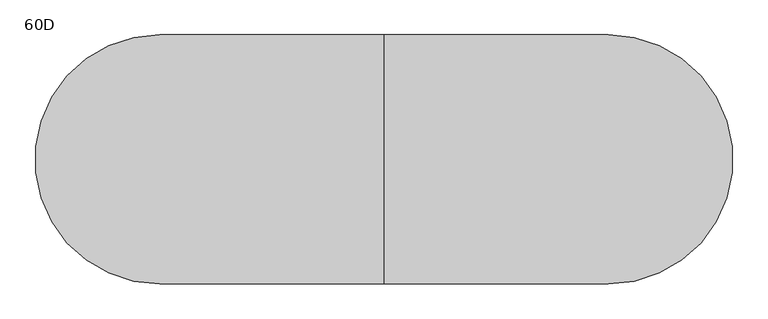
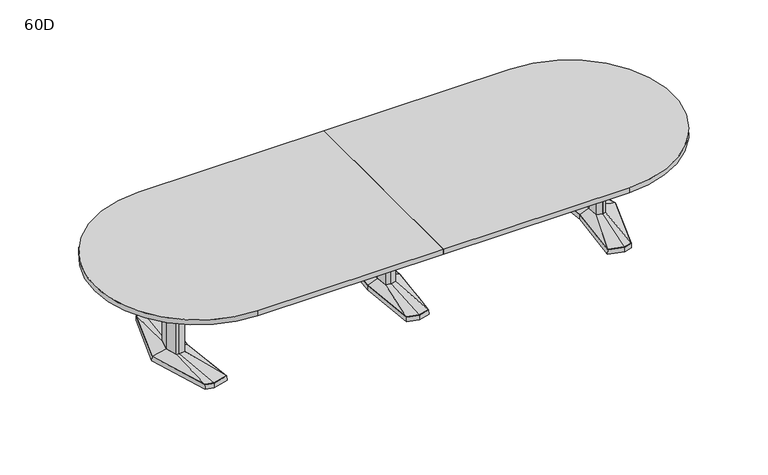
"""IFC4 building model written with IfcOpenShell, lengths in millimetres: furniture geometry, Coalesse_AM_Table_Conference_ETable2_Racetrack_14ft_AluminiumBase : 60D."""

import ifcopenshell
import ifcopenshell.guid

model = None  # the IFC model being written
_history = None  # IfcOwnerHistory: only IFC2X3 demands one
_inside = {}  # id of a spatial element -> (the spatial element, [elements in it])
_under = {}  # id of a project, library or spatial element -> (it, [spatial elements below it])
_declared = {}  # id of a project -> (the project, [libraries it declares])
_typed = {}  # id of a type object -> (the type object, [elements of that type])
_made_of = {}  # id of a material, layer set ... -> (it, [elements and type objects made of it])


def new_model(schema):
    """Start an empty IFC model of exactly this schema.

    Asked for "IFC4X3", IfcOpenShell would pick the latest addendum, in which some entities
    have other attributes; the version numbers below select the first issue.
    IFC2X3 requires an IfcOwnerHistory on every rooted entity: one is made here for all.
    """
    global model, _history
    if schema == "IFC4X3":
        model = ifcopenshell.file(schema_version=(4, 3, 0, 0))
    else:
        model = ifcopenshell.file(schema=schema)
    _inside.clear()
    _under.clear()
    _declared.clear()
    _typed.clear()
    _made_of.clear()
    _history = None
    if model.schema == "IFC2X3":
        org = make("IfcOrganization", Name="unknown")
        user = make(
            "IfcPersonAndOrganization",
            ThePerson=make("IfcPerson", FamilyName="unknown"),
            TheOrganization=org,
        )
        app = make(
            "IfcApplication",
            ApplicationDeveloper=org,
            Version="unknown",
            ApplicationFullName="unknown",
            ApplicationIdentifier="unknown",
        )
        _history = make(
            "IfcOwnerHistory",
            OwningUser=user,
            OwningApplication=app,
            ChangeAction="ADDED",
            CreationDate=0,
        )
    return model


def make(cls, **values):
    """One entity of the class cls with the attributes given. An attribute that is None is left unset."""
    return model.create_entity(
        cls, **{name: value for name, value in values.items() if value is not None}
    )


def rooted(cls, **values):
    """An entity with a GlobalId (a new one), such as an element, a storey or a relation."""
    return make(cls, GlobalId=ifcopenshell.guid.new(), OwnerHistory=_history, **values)


def si_unit(unit_type, name, prefix=None):
    """IfcSIUnit, for example si_unit("LENGTHUNIT", "METRE", prefix="MILLI")."""
    return make("IfcSIUnit", UnitType=unit_type, Prefix=prefix, Name=name)


def assignment(units):
    """IfcUnitAssignment: the units of a project."""
    return None if units is None else make("IfcUnitAssignment", Units=units)


def point(xyz):
    """IfcCartesianPoint."""
    return None if xyz is None else make("IfcCartesianPoint", Coordinates=xyz)


def direction(xyz):
    """IfcDirection."""
    return None if xyz is None else make("IfcDirection", DirectionRatios=xyz)


def frame(location, z_axis=None, x_axis=None):
    """IfcAxis2Placement3D, a coordinate frame: its origin and axes. An axis left out is left unset."""
    return make(
        "IfcAxis2Placement3D",
        Location=point(location),
        Axis=direction(z_axis),
        RefDirection=direction(x_axis),
    )


def frame_2d(location, x_axis=None):
    """IfcAxis2Placement2D, a coordinate frame in the plane: its origin and x axis."""
    return make(
        "IfcAxis2Placement2D", Location=point(location), RefDirection=direction(x_axis)
    )


def origin():
    """The frame at (0, 0, 0) with its axes left unset."""
    return frame((0.0, 0.0, 0.0))


def place(relative_to, where):
    """IfcLocalPlacement: puts the frame where relative to a parent placement (None: the world)."""
    return make(
        "IfcLocalPlacement", PlacementRelTo=relative_to, RelativePlacement=where
    )


def context(
    kind, dimensions, precision=None, world=None, true_north=None, identifier=None
):
    """IfcGeometricRepresentationContext, for example the 3D "Model" context."""
    return make(
        "IfcGeometricRepresentationContext",
        ContextIdentifier=identifier,
        ContextType=kind,
        CoordinateSpaceDimension=dimensions,
        Precision=precision,
        WorldCoordinateSystem=world,
        TrueNorth=true_north,
    )


def project(units=None, contexts=None):
    """IfcProject with its units and contexts."""
    return rooted(
        "IfcProject",
        Name="project",
        RepresentationContexts=contexts,
        UnitsInContext=assignment(units),
    )


def spatial(cls, under=None, at=None, **own):
    """A site, building, storey or space (cls), placed at a placement, below another one or the project."""
    s = rooted(cls, ObjectPlacement=at, **own)
    if under is not None:
        _under.setdefault(under.id(), (under, []))[1].append(s)
    return s


def polyline(points):
    """IfcPolyline through the points."""
    return make("IfcPolyline", Points=[point(p) for p in points])


def circle_curve(where, radius):
    """IfcCircle in the frame where."""
    return make("IfcCircle", Position=where, Radius=radius)


def trimmed(basis, trim1, trim2, sense, master):
    """IfcTrimmedCurve: the piece of a basis curve between two trims."""
    return make(
        "IfcTrimmedCurve",
        BasisCurve=basis,
        Trim1=trim1,
        Trim2=trim2,
        SenseAgreement=sense,
        MasterRepresentation=master,
    )


def segment(curve, same_sense, transition):
    """IfcCompositeCurveSegment."""
    return make(
        "IfcCompositeCurveSegment",
        Transition=transition,
        SameSense=same_sense,
        ParentCurve=curve,
    )


def composite_curve(segments, self_intersect=None):
    """IfcCompositeCurve: segments joined end to end."""
    return make("IfcCompositeCurve", Segments=segments, SelfIntersect=self_intersect)


def outline(outer, holes=None, kind="AREA"):
    """IfcArbitraryClosedProfileDef: a profile drawn as a closed curve; with holes, ...WithVoids."""
    if holes is None:
        return make("IfcArbitraryClosedProfileDef", ProfileType=kind, OuterCurve=outer)
    return make(
        "IfcArbitraryProfileDefWithVoids",
        ProfileType=kind,
        OuterCurve=outer,
        InnerCurves=holes,
    )


def extrude(swept, where, along, depth):
    """IfcExtrudedAreaSolid: the profile swept, set in the frame where, extruded along a direction by depth."""
    return make(
        "IfcExtrudedAreaSolid",
        SweptArea=swept,
        Position=where,
        ExtrudedDirection=direction(along),
        Depth=depth,
    )


def faces_of(points, faces, orient=None, outer=None):
    """IfcFace entities. A face is a list of loops; a loop is a list of indices into points, from 0.

    orient and outer hold one flag for each loop. By default every Orientation is true, the
    first loop of a face is its IfcFaceOuterBound and the others are IfcFaceBound.
    """
    made = []
    for i, loops in enumerate(faces):
        bounds = []
        for j, loop in enumerate(loops):
            is_outer = j == 0 if outer is None else outer[i][j]
            bounds.append(
                make(
                    "IfcFaceOuterBound" if is_outer else "IfcFaceBound",
                    Bound=make("IfcPolyLoop", Polygon=[points[k] for k in loop]),
                    Orientation=True if orient is None else orient[i][j],
                )
            )
        made.append(make("IfcFace", Bounds=bounds))
    return made


def faceted_brep(points, faces, orient=None, outer=None, voids=None):
    """IfcFacetedBrep: a solid bounded by flat faces; with voids (closed shells), ...WithVoids."""
    shared = [point(p) for p in points]
    hull = make("IfcClosedShell", CfsFaces=faces_of(shared, faces, orient, outer))
    if voids is None:
        return make("IfcFacetedBrep", Outer=hull)
    return make(
        "IfcFacetedBrepWithVoids",
        Outer=hull,
        Voids=[
            make(cls, CfsFaces=faces_of(shared, fs, o, b)) for cls, fs, o, b in voids
        ],
    )


def shape(context_of_items, identifier, shape_type, items):
    """IfcShapeRepresentation: the items that make up one representation, for example the "Body"."""
    return make(
        "IfcShapeRepresentation",
        ContextOfItems=context_of_items,
        RepresentationIdentifier=identifier,
        RepresentationType=shape_type,
        Items=items,
    )


def source(mapping_origin, context_of_items, identifier, shape_type, items):
    """IfcRepresentationMap: a shape defined once, which mapped items show again and again."""
    return make(
        "IfcRepresentationMap",
        MappingOrigin=mapping_origin,
        MappedRepresentation=shape(context_of_items, identifier, shape_type, items),
    )


def transform(
    local_origin,
    x_axis=None,
    y_axis=None,
    z_axis=None,
    scale=None,
    scale2=None,
    scale3=None,
    uniform=True,
):
    """IfcCartesianTransformationOperator3D, or its non-uniform kind. x_axis, y_axis, z_axis: its Axis1, 2, 3."""
    if uniform:
        return make(
            "IfcCartesianTransformationOperator3D",
            Axis1=direction(x_axis),
            Axis2=direction(y_axis),
            LocalOrigin=point(local_origin),
            Scale=scale,
            Axis3=direction(z_axis),
        )
    return make(
        "IfcCartesianTransformationOperator3DnonUniform",
        Axis1=direction(x_axis),
        Axis2=direction(y_axis),
        LocalOrigin=point(local_origin),
        Scale=scale,
        Axis3=direction(z_axis),
        Scale2=scale2,
        Scale3=scale3,
    )


def mapped(mapping_source, mapping_target):
    """IfcMappedItem: shows the shape of a source again, moved by a transform."""
    return make(
        "IfcMappedItem", MappingSource=mapping_source, MappingTarget=mapping_target
    )


def made_of(thing, what):
    """Note that an element or type object is made of a material, layer set ...; save() writes the relation."""
    if what is not None:
        _made_of.setdefault(what.id(), (what, []))[1].append(thing)
    return thing


def element(
    cls,
    number,
    at=None,
    inside=None,
    cuts=None,
    type_object=None,
    material=None,
    context=None,
    identifier="Body",
    shape_type=None,
    held_by="IfcProductDefinitionShape",
    body=None,
    shapes=None,
    **own,
):
    """One element of the class cls, such as IfcWall. Its Tag is "e" and its number.

    at: its placement. inside: the storey or other place that contains it. cuts: it is an
    opening in that element (IfcRelVoidsElement). A single representation is given by context,
    identifier, shape_type and body (its items); several are given by shapes. held_by: the class
    of the entity that holds the representations. save() writes the other relations.
    """
    e = rooted(cls, Tag="e%d" % number, ObjectPlacement=at, **own)
    if body is not None:
        shapes = [shape(context, identifier, shape_type, body)]
    if shapes is not None:
        e.Representation = make(held_by, Representations=shapes)
    if inside is not None:
        _inside.setdefault(inside.id(), (inside, []))[1].append(e)
    if cuts is not None:
        rooted(
            "IfcRelVoidsElement", RelatingBuildingElement=cuts, RelatedOpeningElement=e
        )
    if type_object is not None:
        _typed.setdefault(type_object.id(), (type_object, []))[1].append(e)
    return made_of(e, material)


def aggregate(whole, parts):
    """IfcRelAggregates: a whole, such as a stair, and the parts it consists of."""
    return rooted("IfcRelAggregates", RelatingObject=whole, RelatedObjects=parts)


def save(model, path):
    """Write the relations noted so far, then the file.

    IfcRelAggregates (storeys below a building ...), IfcRelContainedInSpatialStructure (elements
    in a storey), IfcRelDefinesByType, IfcRelAssociatesMaterial and IfcRelDeclares: one each for
    every whole, place, type object, material and project.
    """
    for whole, parts in _under.values():
        aggregate(whole, parts)
    for where, things in _inside.values():
        rooted(
            "IfcRelContainedInSpatialStructure",
            RelatedElements=things,
            RelatingStructure=where,
        )
    for kind, things in _typed.values():
        rooted("IfcRelDefinesByType", RelatedObjects=things, RelatingType=kind)
    for what, things in _made_of.values():
        rooted("IfcRelAssociatesMaterial", RelatedObjects=things, RelatingMaterial=what)
    for by, libraries in _declared.values():
        rooted("IfcRelDeclares", RelatingContext=by, RelatedDefinitions=libraries)
    model.write(path)


def plane_surface(at):
    """IfcPlane: the flat surface through the origin of the frame at, square to its z axis."""
    return make("IfcPlane", Position=at)


def spline_surface(u_degree, v_degree, points, u_multiplicities, v_multiplicities, u_knots, v_knots, weights=None):
    """IfcBSplineSurfaceWithKnots; with weights, IfcRationalBSplineSurfaceWithKnots. points: one row for each step in u."""
    own = dict(
        UDegree=u_degree,
        VDegree=v_degree,
        ControlPointsList=[[point(p) for p in row] for row in points],
        SurfaceForm="UNSPECIFIED",
        UClosed=False,
        VClosed=False,
        SelfIntersect=False,
        UMultiplicities=u_multiplicities,
        VMultiplicities=v_multiplicities,
        UKnots=u_knots,
        VKnots=v_knots,
        KnotSpec="UNSPECIFIED",
    )
    if weights is None:
        return make("IfcBSplineSurfaceWithKnots", **own)
    return make("IfcRationalBSplineSurfaceWithKnots", WeightsData=weights, **own)


def advanced_brep(points, edges, surfaces, faces):
    """IfcAdvancedBrep: a solid bounded by faces that lie on surfaces and meet in shared edges.

    An edge is (start, end): straight between two places in points (the first is 0);
    or (start, end, curve); or (start, end, curve, False) where it runs against its curve.
    A face is (place in surfaces, loops), or (place, loops, False) where it looks against
    its surface's normal. A loop lists edges by number (the first is 1), with a minus sign
    where the edge is run from its end to its start. The first loop is the outer one.
    """
    corners = [point(p) for p in points]
    vertices = [make("IfcVertexPoint", VertexGeometry=c) for c in corners]
    made = []
    for start, end, *more in edges:
        made.append(
            make(
                "IfcEdgeCurve",
                EdgeStart=vertices[start],
                EdgeEnd=vertices[end],
                EdgeGeometry=more[0] if more else make("IfcPolyline", Points=[corners[start], corners[end]]),
                SameSense=more[1] if len(more) > 1 else True,
            )
        )
    hull = []
    for where, loops, *sense in faces:
        bounds = []
        for j, loop in enumerate(loops):
            ring = [make("IfcOrientedEdge", EdgeElement=made[abs(k) - 1], Orientation=k > 0) for k in loop]
            bounds.append(
                make(
                    "IfcFaceOuterBound" if j == 0 else "IfcFaceBound",
                    Bound=make("IfcEdgeLoop", EdgeList=ring),
                    Orientation=True,
                )
            )
        hull.append(make("IfcAdvancedFace", Bounds=bounds, FaceSurface=surfaces[where], SameSense=sense[0] if sense else True))
    return make("IfcAdvancedBrep", Outer=make("IfcClosedShell", CfsFaces=hull))


def furniture_60d_5a4dc6db(model_context):
    return source(origin(), model_context, "Body", "SolidModel", [
        faceted_brep([(-81.2333791, -433.8053819, 38.1), (0.0, -455.556576, 38.1), (81.2333791, -433.8053819, 38.1), (119.0564774, 0.0, 38.1), (81.2333791, 433.8053819, 38.1), (0.0, 455.556576, 38.1), (-81.2333791, 433.8053819, 38.1), (-119.0564774, 0.0, 38.1), (-82.7182795, -435.0512063, 3.175), (-120.65, 0.0, 3.175), (-82.7182795, 435.0512063, 3.175), (0.0, 457.2, 3.175), (82.7182795, 435.0512063, 3.175), (120.65, 0.0, 3.175), (82.7182795, -435.0512063, 3.175), (0.0, -457.2, 3.175), (0.0, 429.2617927, 3.175), (-77.9676806, 408.3850278, 3.175), (-74.7019821, 382.9646737, 3.175), (0.0, 402.9670094, 3.175), (74.7019821, 382.9646737, 3.175), (77.9676806, 408.3850278, 3.175), (0.0, -429.2617927, 3.175), (77.9676806, -408.3850278, 3.175), (74.7019821, -382.9646737, 3.175), (0.0, -402.9670094, 3.175), (-74.7019821, -382.9646737, 3.175), (-77.9676806, -408.3850278, 3.175), (-71.8574262, 114.6326257, 3.175), (-82.5426076, 0.0, 3.175), (-71.8574262, -114.6326257, 3.175), (0.0, -133.8761372, 3.175), (71.8574262, -114.6326257, 3.175), (82.5426076, 0.0, 3.175), (71.8574262, 114.6326257, 3.175), (0.0, 133.8761372, 3.175), (0.0, 429.2617927, 0.0), (77.9676806, 408.3850278, 0.0), (74.7019821, 382.9646737, 0.0), (0.0, 402.9670094, 0.0), (-74.7019821, 382.9646737, 0.0), (-77.9676806, 408.3850278, 0.0), (0.0, -429.2617927, 0.0), (-77.9676806, -408.3850278, 0.0), (-74.7019821, -382.9646737, 0.0), (0.0, -402.9670094, 0.0), (74.7019821, -382.9646737, 0.0), (77.9676806, -408.3850278, 0.0), (-71.8574262, 114.6326257, 0.0), (0.0, 133.8761372, 0.0), (71.8574262, 114.6326257, 0.0), (82.5426076, 0.0, 0.0), (71.8574262, -114.6326257, 0.0), (0.0, -133.8761372, 0.0), (-71.8574262, -114.6326257, 0.0), (-82.5426076, 0.0, 0.0)], [[[0, 1, 2, 3, 4, 5, 6, 7]], [[8, 9, 10, 11, 12, 13, 14, 15], [16, 17, 18, 19, 20, 21], [22, 23, 24, 25, 26, 27], [28, 29, 30, 31, 32, 33, 34, 35]], [[1, 0, 8, 15]], [[2, 1, 15, 14]], [[3, 2, 14, 13]], [[4, 3, 13, 12]], [[5, 4, 12, 11]], [[6, 5, 11, 10]], [[7, 6, 10, 9]], [[0, 7, 9, 8]], [[36, 37, 38, 39, 40, 41]], [[42, 43, 44, 45, 46, 47]], [[48, 49, 50, 51, 52, 53, 54, 55]], [[36, 41, 17, 16]], [[41, 40, 18, 17]], [[40, 39, 19, 18]], [[39, 38, 20, 19]], [[38, 37, 21, 20]], [[37, 36, 16, 21]], [[42, 47, 23, 22]], [[47, 46, 24, 23]], [[46, 45, 25, 24]], [[45, 44, 26, 25]], [[44, 43, 27, 26]], [[43, 42, 22, 27]], [[48, 55, 29, 28]], [[55, 54, 30, 29]], [[54, 53, 31, 30]], [[53, 52, 32, 31]], [[52, 51, 33, 32]], [[51, 50, 34, 33]], [[50, 49, 35, 34]], [[49, 48, 28, 35]]]),
        faceted_brep([(-36.3832834, 84.6900825, 698.5), (-44.2774487, 0.0, 698.5), (-36.3832834, -84.6900825, 698.5), (0.0, -94.4335728, 698.5), (36.3832834, -84.6900825, 698.5), (44.2774487, 0.0, 698.5), (36.3832834, 84.6900825, 698.5), (0.0, 94.4335728, 698.5), (-36.3832834, 84.6900825, 63.5), (0.0, 94.4335728, 63.5), (36.3832834, 84.6900825, 63.5), (44.2774487, 0.0, 63.5), (36.3832834, -84.6900825, 63.5), (0.0, -94.4335728, 63.5), (-36.3832834, -84.6900825, 63.5), (-44.2774487, 0.0, 63.5)], [[[0, 1, 2, 3, 4, 5, 6, 7]], [[8, 9, 10, 11, 12, 13, 14, 15]], [[1, 0, 8, 15]], [[2, 1, 15, 14]], [[3, 2, 14, 13]], [[4, 3, 13, 12]], [[5, 4, 12, 11]], [[6, 5, 11, 10]], [[7, 6, 10, 9]], [[0, 7, 9, 8]]]),
        advanced_brep(
        [(-36.3832834, 84.6900825, 63.5), (-44.2774487, 0.0, 63.5), (-36.3832834, -84.6900825, 63.5), (0.0, -94.4335728, 63.5), (36.3832834, -84.6900825, 63.5), (44.2774487, 0.0, 63.5), (36.3832834, 84.6900825, 63.5), (0.0, 94.4335728, 63.5), (-81.2333791, 433.8053819, 38.1), (0.0, 455.556576, 38.1), (81.2333791, 433.8053819, 38.1), (119.0564774, 0.0, 38.1), (81.2333791, -433.8053819, 38.1), (0.0, -455.556576, 38.1), (-81.2333791, -433.8053819, 38.1), (-119.0564774, 0.0, 38.1)],
        [
            (0, 1),
            (1, 2),
            (2, 3),
            (3, 4),
            (4, 5),
            (5, 6),
            (6, 7),
            (7, 0),
            (8, 9),
            (9, 10),
            (10, 11),
            (11, 12),
            (12, 13),
            (13, 14),
            (14, 15),
            (15, 8),
            (15, 1),
            (0, 8),
            (14, 2),
            (13, 3),
            (12, 4),
            (11, 5),
            (10, 6),
            (9, 7),
        ],
        [
            plane_surface(frame((0.0, 0.0, 63.5), z_axis=(0.0, 0.0, 1.0000000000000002), x_axis=(-0.9659615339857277, -0.25868574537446, 0.0))),
            plane_surface(frame((0.0, 0.0, 38.1), z_axis=(0.0, 0.0, -1.0000000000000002), x_axis=(-0.9659615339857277, -0.25868574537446, 0.0))),
            spline_surface(1, 1, [[(-81.2333791, 433.8053819, 38.1), (-36.3832834, 84.6900825, 63.5)], [(-119.0564774, 0.0, 38.1), (-44.2774487, 0.0, 63.5)]], [2, 2], [2, 2], [0.0, 1.0], [0.0, 1.0]),
            spline_surface(1, 1, [[(-119.0564774, 0.0, 38.1), (-44.2774487, 0.0, 63.5)], [(-81.2333791, -433.8053819, 38.1), (-36.3832834, -84.6900825, 63.5)]], [2, 2], [2, 2], [0.0, 1.0], [0.0, 1.0]),
            spline_surface(1, 1, [[(-81.2333791, -433.8053819, 38.1), (-36.3832834, -84.6900825, 63.5)], [(0.0, -455.556576, 38.1), (0.0, -94.4335728, 63.5)]], [2, 2], [2, 2], [0.0, 1.0], [0.0, 1.0]),
            spline_surface(1, 1, [[(0.0, -455.556576, 38.1), (0.0, -94.4335728, 63.5)], [(81.2333791, -433.8053819, 38.1), (36.3832834, -84.6900825, 63.5)]], [2, 2], [2, 2], [0.0, 1.0], [0.0, 1.0]),
            spline_surface(1, 1, [[(81.2333791, -433.8053819, 38.1), (36.3832834, -84.6900825, 63.5)], [(119.0564774, 0.0, 38.1), (44.2774487, 0.0, 63.5)]], [2, 2], [2, 2], [0.0, 1.0], [0.0, 1.0]),
            spline_surface(1, 1, [[(119.0564774, 0.0, 38.1), (44.2774487, 0.0, 63.5)], [(81.2333791, 433.8053819, 38.1), (36.3832834, 84.6900825, 63.5)]], [2, 2], [2, 2], [0.0, 1.0], [0.0, 1.0]),
            spline_surface(1, 1, [[(81.2333791, 433.8053819, 38.1), (36.3832834, 84.6900825, 63.5)], [(0.0, 455.556576, 38.1), (0.0, 94.4335728, 63.5)]], [2, 2], [2, 2], [0.0, 1.0], [0.0, 1.0]),
            spline_surface(1, 1, [[(0.0, 455.556576, 38.1), (0.0, 94.4335728, 63.5)], [(-81.2333791, 433.8053819, 38.1), (-36.3832834, 84.6900825, 63.5)]], [2, 2], [2, 2], [0.0, 1.0], [0.0, 1.0]),
        ],
        [
            (0, [[1, 2, 3, 4, 5, 6, 7, 8]]),
            (1, [[9, 10, 11, 12, 13, 14, 15, 16]]),
            (2, [[-16, 17, -1, 18]]),
            (3, [[-15, 19, -2, -17]]),
            (4, [[-14, 20, -3, -19]]),
            (5, [[-13, 21, -4, -20]]),
            (6, [[-12, 22, -5, -21]]),
            (7, [[-11, 23, -6, -22]]),
            (8, [[-10, 24, -7, -23]]),
            (9, [[-9, -18, -8, -24]]),
        ],
    ),
        faceted_brep([(1515.4306835, 455.5848221, 38.1), (1405.8531277, 426.2263816, 38.1), (1447.0163717, 0.0, 38.1), (1405.8531277, -426.2263816, 38.1), (1515.4306835, -455.5848221, 38.1), (1571.5570396, -440.5478297, 38.1), (1708.8684269, 0.0, 38.1), (1571.5570396, 440.5478297, 38.1), (1515.4306754, 457.2283104, 3.175), (1572.8124472, 441.8549756, 3.175), (1710.53125, 0.0, 3.175), (1572.8124472, -441.8549756, 3.175), (1515.4306754, -457.2283104, 3.175), (1404.14375, -427.4118891, 3.175), (1445.4214856, 0.0, 3.175), (1404.14375, 427.4118891, 3.175), (1519.020115, 428.3273875, 3.175), (1413.9718228, 402.1057253, 3.175), (1422.090518, 377.985069, 3.175), (1522.6095466, 401.0699529, 3.175), (1573.1691725, 387.524361, 3.175), (1572.3631061, 414.0360954, 3.175), (1519.020115, -428.3273875, 3.175), (1572.3631061, -414.0360954, 3.175), (1573.1691725, -387.524361, 3.175), (1522.6095466, -401.0699529, 3.175), (1422.090518, -377.985069, 3.175), (1413.9718228, -402.1057253, 3.175), (1645.6153621, 0.0, 3.175), (1613.3459611, 120.4193755, 3.175), (1564.6987222, 133.471665, 3.175), (1484.8180526, 119.4176561, 3.175), (1473.6868466, 0.0, 3.175), (1484.8180526, -119.4176561, 3.175), (1564.6987222, -133.471665, 3.175), (1613.3459611, -120.4193755, 3.175), (1519.020115, 428.3273875, 0.0), (1572.3631061, 414.0360954, 0.0), (1573.1691725, 387.524361, 0.0), (1522.6095466, 401.0699529, 0.0), (1422.090518, 377.985069, 0.0), (1413.9718228, 402.1057253, 0.0), (1519.020115, -428.3273875, 0.0), (1413.9718228, -402.1057253, 0.0), (1422.090518, -377.985069, 0.0), (1522.6095466, -401.0699529, 0.0), (1573.1691725, -387.524361, 0.0), (1572.3631061, -414.0360954, 0.0), (1645.6153621, 0.0, 0.0), (1613.3459611, -120.4193755, 0.0), (1564.6987222, -133.471665, 0.0), (1484.8180526, -119.4176561, 0.0), (1473.6868466, 0.0, 0.0), (1484.8180526, 119.4176561, 0.0), (1564.6987222, 133.471665, 0.0), (1613.3459611, 120.4193755, 0.0)], [[[0, 1, 2, 3, 4, 5, 6, 7]], [[8, 9, 10, 11, 12, 13, 14, 15], [16, 17, 18, 19, 20, 21], [22, 23, 24, 25, 26, 27], [28, 29, 30, 31, 32, 33, 34, 35]], [[7, 9, 8, 0]], [[6, 10, 9, 7]], [[5, 11, 10, 6]], [[4, 12, 11, 5]], [[3, 13, 12, 4]], [[2, 14, 13, 3]], [[1, 15, 14, 2]], [[0, 8, 15, 1]], [[36, 37, 38, 39, 40, 41]], [[42, 43, 44, 45, 46, 47]], [[48, 49, 50, 51, 52, 53, 54, 55]], [[36, 16, 21, 37]], [[37, 21, 20, 38]], [[38, 20, 19, 39]], [[39, 19, 18, 40]], [[40, 18, 17, 41]], [[41, 17, 16, 36]], [[42, 22, 27, 43]], [[43, 27, 26, 44]], [[44, 26, 25, 45]], [[45, 25, 24, 46]], [[46, 24, 23, 47]], [[47, 23, 22, 42]], [[48, 28, 35, 49]], [[49, 35, 34, 50]], [[50, 34, 33, 51]], [[51, 33, 32, 52]], [[52, 32, 31, 53]], [[53, 31, 30, 54]], [[54, 30, 29, 55]], [[55, 29, 28, 48]]]),
        faceted_brep([(1606.1710836, 0.0, 698.5), (1582.2358546, 89.3188359, 698.5), (1565.3824984, 93.8406728, 698.5), (1562.9826511, 94.4845635, 698.5), (1520.055146, 86.9320037, 698.5), (1511.9520056, 0.0, 698.5), (1520.055146, -86.9320037, 698.5), (1562.9826511, -94.4845635, 698.5), (1565.3824984, -93.8406728, 698.5), (1582.2358546, -89.3188359, 698.5), (1606.1710836, 0.0, 63.5), (1582.2358546, -89.3188359, 63.5), (1565.3824984, -93.8406728, 63.5), (1562.9826511, -94.4845635, 63.5), (1520.055146, -86.9320037, 63.5), (1511.9520056, 0.0, 63.5), (1520.055146, 86.9320037, 63.5), (1562.9826511, 94.4845635, 63.5), (1565.3824984, 93.8406728, 63.5), (1582.2358546, 89.3188359, 63.5)], [[[0, 1, 2, 3, 4, 5, 6, 7, 8, 9]], [[10, 11, 12, 13, 14, 15, 16, 17, 18, 19]], [[9, 11, 10, 0]], [[8, 12, 11, 9]], [[7, 13, 12, 8]], [[6, 14, 13, 7]], [[5, 15, 14, 6]], [[4, 16, 15, 5]], [[3, 17, 16, 4]], [[2, 18, 17, 3]], [[1, 19, 18, 2]], [[0, 10, 19, 1]]]),
        advanced_brep(
        [(1562.9826511, 94.4845635, 63.5), (1520.055146, 86.9320037, 63.5), (1511.9520056, 0.0, 63.5), (1520.055146, -86.9320037, 63.5), (1562.9826511, -94.4845635, 63.5), (1582.2358546, -89.3188359, 63.5), (1606.1710836, 0.0, 63.5), (1582.2358546, 89.3188359, 63.5), (1515.4306835, 455.5848221, 38.1), (1571.5570396, 440.5478297, 38.1), (1708.8684269, 0.0, 38.1), (1571.5570396, -440.5478297, 38.1), (1515.4306835, -455.5848221, 38.1), (1405.8531277, -426.2263816, 38.1), (1447.0163717, 0.0, 38.1), (1405.8531277, 426.2263816, 38.1)],
        [
            (0, 1),
            (1, 2),
            (2, 3),
            (3, 4),
            (4, 5),
            (5, 6),
            (6, 7),
            (7, 0),
            (8, 9),
            (9, 10),
            (10, 11),
            (11, 12),
            (12, 13),
            (13, 14),
            (14, 15),
            (15, 8),
            (8, 0),
            (7, 9),
            (6, 10),
            (5, 11),
            (4, 12),
            (3, 13),
            (2, 14),
            (1, 15),
        ],
        [
            plane_surface(frame((1556.0837991, 0.0, 63.5), z_axis=(0.0, 0.0, 1.0), x_axis=(-0.25884244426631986, -0.9659195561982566, 0.0))),
            plane_surface(frame((1517.6958125, 0.0, 38.1), z_axis=(0.0, 0.0, -1.0), x_axis=(-0.25884244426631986, -0.9659195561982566, 0.0))),
            spline_surface(1, 1, [[(1515.4306835, 455.5848221, 38.1), (1571.5570396, 440.5478297, 38.1)], [(1562.9826511, 94.4845635, 63.5), (1582.2358546, 89.3188359, 63.5)]], [2, 2], [2, 2], [0.0, 1.0], [0.0, 1.0]),
            spline_surface(1, 1, [[(1571.5570396, 440.5478297, 38.1), (1708.8684269, 0.0, 38.1)], [(1582.2358546, 89.3188359, 63.5), (1606.1710836, 0.0, 63.5)]], [2, 2], [2, 2], [0.0, 1.0], [0.0, 1.0]),
            spline_surface(1, 1, [[(1708.8684269, 0.0, 38.1), (1571.5570396, -440.5478297, 38.1)], [(1606.1710836, 0.0, 63.5), (1582.2358546, -89.3188359, 63.5)]], [2, 2], [2, 2], [0.0, 1.0], [0.0, 1.0]),
            spline_surface(1, 1, [[(1571.5570396, -440.5478297, 38.1), (1515.4306835, -455.5848221, 38.1)], [(1582.2358546, -89.3188359, 63.5), (1562.9826511, -94.4845635, 63.5)]], [2, 2], [2, 2], [0.0, 1.0], [0.0, 1.0]),
            spline_surface(1, 1, [[(1515.4306835, -455.5848221, 38.1), (1405.8531277, -426.2263816, 38.1)], [(1562.9826511, -94.4845635, 63.5), (1520.055146, -86.9320037, 63.5)]], [2, 2], [2, 2], [0.0, 1.0], [0.0, 1.0]),
            spline_surface(1, 1, [[(1405.8531277, -426.2263816, 38.1), (1447.0163717, 0.0, 38.1)], [(1520.055146, -86.9320037, 63.5), (1511.9520056, 0.0, 63.5)]], [2, 2], [2, 2], [0.0, 1.0], [0.0, 1.0]),
            spline_surface(1, 1, [[(1447.0163717, 0.0, 38.1), (1405.8531277, 426.2263816, 38.1)], [(1511.9520056, 0.0, 63.5), (1520.055146, 86.9320037, 63.5)]], [2, 2], [2, 2], [0.0, 1.0], [0.0, 1.0]),
            spline_surface(1, 1, [[(1405.8531277, 426.2263816, 38.1), (1515.4306835, 455.5848221, 38.1)], [(1520.055146, 86.9320037, 63.5), (1562.9826511, 94.4845635, 63.5)]], [2, 2], [2, 2], [0.0, 1.0], [0.0, 1.0]),
        ],
        [
            (0, [[1, 2, 3, 4, 5, 6, 7, 8]]),
            (1, [[9, 10, 11, 12, 13, 14, 15, 16]]),
            (2, [[17, -8, 18, -9]]),
            (3, [[-18, -7, 19, -10]]),
            (4, [[-19, -6, 20, -11]]),
            (5, [[-20, -5, 21, -12]]),
            (6, [[-21, -4, 22, -13]]),
            (7, [[-22, -3, 23, -14]]),
            (8, [[-23, -2, 24, -15]]),
            (9, [[-24, -1, -17, -16]]),
        ],
    ),
        faceted_brep([(-1515.4306835, 455.5848221, 38.1), (-1571.5570396, 440.5478297, 38.1), (-1708.8684269, 0.0, 38.1), (-1571.5570396, -440.5478297, 38.1), (-1515.4306835, -455.5848221, 38.1), (-1405.8531277, -426.2263816, 38.1), (-1447.0163717, 0.0, 38.1), (-1405.8531277, 426.2263816, 38.1), (-1515.4306754, 457.2283104, 3.175), (-1404.14375, 427.4118891, 3.175), (-1445.4214856, 0.0, 3.175), (-1404.14375, -427.4118891, 3.175), (-1515.4306754, -457.2283104, 3.175), (-1572.8124472, -441.8549756, 3.175), (-1710.53125, 0.0, 3.175), (-1572.8124472, 441.8549756, 3.175), (-1519.020115, 428.3273875, 3.175), (-1572.3631061, 414.0360954, 3.175), (-1573.1691725, 387.524361, 3.175), (-1522.6095466, 401.0699529, 3.175), (-1422.090518, 377.985069, 3.175), (-1413.9718228, 402.1057253, 3.175), (-1519.020115, -428.3273875, 3.175), (-1413.9718228, -402.1057253, 3.175), (-1422.090518, -377.985069, 3.175), (-1522.6095466, -401.0699529, 3.175), (-1573.1691725, -387.524361, 3.175), (-1572.3631061, -414.0360954, 3.175), (-1645.6153621, 0.0, 3.175), (-1613.3459611, -120.4193755, 3.175), (-1564.6987222, -133.471665, 3.175), (-1484.8180526, -119.4176561, 3.175), (-1473.6868466, 0.0, 3.175), (-1484.8180526, 119.4176561, 3.175), (-1564.6987222, 133.471665, 3.175), (-1613.3459611, 120.4193755, 3.175), (-1519.020115, 428.3273875, 0.0), (-1413.9718228, 402.1057253, 0.0), (-1422.090518, 377.985069, 0.0), (-1522.6095466, 401.0699529, 0.0), (-1573.1691725, 387.524361, 0.0), (-1572.3631061, 414.0360954, 0.0), (-1519.020115, -428.3273875, 0.0), (-1572.3631061, -414.0360954, 0.0), (-1573.1691725, -387.524361, 0.0), (-1522.6095466, -401.0699529, 0.0), (-1422.090518, -377.985069, 0.0), (-1413.9718228, -402.1057253, 0.0), (-1645.6153621, 0.0, 0.0), (-1613.3459611, 120.4193755, 0.0), (-1564.6987222, 133.471665, 0.0), (-1484.8180526, 119.4176561, 0.0), (-1473.6868466, 0.0, 0.0), (-1484.8180526, -119.4176561, 0.0), (-1564.6987222, -133.471665, 0.0), (-1613.3459611, -120.4193755, 0.0)], [[[0, 1, 2, 3, 4, 5, 6, 7]], [[8, 9, 10, 11, 12, 13, 14, 15], [16, 17, 18, 19, 20, 21], [22, 23, 24, 25, 26, 27], [28, 29, 30, 31, 32, 33, 34, 35]], [[1, 0, 8, 15]], [[2, 1, 15, 14]], [[3, 2, 14, 13]], [[4, 3, 13, 12]], [[5, 4, 12, 11]], [[6, 5, 11, 10]], [[7, 6, 10, 9]], [[0, 7, 9, 8]], [[36, 37, 38, 39, 40, 41]], [[42, 43, 44, 45, 46, 47]], [[48, 49, 50, 51, 52, 53, 54, 55]], [[36, 41, 17, 16]], [[41, 40, 18, 17]], [[40, 39, 19, 18]], [[39, 38, 20, 19]], [[38, 37, 21, 20]], [[37, 36, 16, 21]], [[42, 47, 23, 22]], [[47, 46, 24, 23]], [[46, 45, 25, 24]], [[45, 44, 26, 25]], [[44, 43, 27, 26]], [[43, 42, 22, 27]], [[48, 55, 29, 28]], [[55, 54, 30, 29]], [[54, 53, 31, 30]], [[53, 52, 32, 31]], [[52, 51, 33, 32]], [[51, 50, 34, 33]], [[50, 49, 35, 34]], [[49, 48, 28, 35]]]),
        faceted_brep([(-1606.1710836, 0.0, 698.5), (-1582.2358546, -89.3188359, 698.5), (-1565.3824984, -93.8406728, 698.5), (-1562.9826511, -94.4845635, 698.5), (-1520.055146, -86.9320037, 698.5), (-1511.9520056, 0.0, 698.5), (-1520.055146, 86.9320037, 698.5), (-1562.9826511, 94.4845635, 698.5), (-1565.3824984, 93.8406728, 698.5), (-1582.2358546, 89.3188359, 698.5), (-1606.1710836, 0.0, 63.5), (-1582.2358546, 89.3188359, 63.5), (-1565.3824984, 93.8406728, 63.5), (-1562.9826511, 94.4845635, 63.5), (-1520.055146, 86.9320037, 63.5), (-1511.9520056, 0.0, 63.5), (-1520.055146, -86.9320037, 63.5), (-1562.9826511, -94.4845635, 63.5), (-1565.3824984, -93.8406728, 63.5), (-1582.2358546, -89.3188359, 63.5)], [[[0, 1, 2, 3, 4, 5, 6, 7, 8, 9]], [[10, 11, 12, 13, 14, 15, 16, 17, 18, 19]], [[1, 0, 10, 19]], [[2, 1, 19, 18]], [[3, 2, 18, 17]], [[4, 3, 17, 16]], [[5, 4, 16, 15]], [[6, 5, 15, 14]], [[7, 6, 14, 13]], [[8, 7, 13, 12]], [[9, 8, 12, 11]], [[0, 9, 11, 10]]]),
        advanced_brep(
        [(-1562.9826511, 94.4845635, 63.5), (-1582.2358546, 89.3188359, 63.5), (-1606.1710836, 0.0, 63.5), (-1582.2358546, -89.3188359, 63.5), (-1562.9826511, -94.4845635, 63.5), (-1520.055146, -86.9320037, 63.5), (-1511.9520056, 0.0, 63.5), (-1520.055146, 86.9320037, 63.5), (-1515.4306835, 455.5848221, 38.1), (-1405.8531277, 426.2263816, 38.1), (-1447.0163717, 0.0, 38.1), (-1405.8531277, -426.2263816, 38.1), (-1515.4306835, -455.5848221, 38.1), (-1571.5570396, -440.5478297, 38.1), (-1708.8684269, 0.0, 38.1), (-1571.5570396, 440.5478297, 38.1)],
        [
            (0, 1),
            (1, 2),
            (2, 3),
            (3, 4),
            (4, 5),
            (5, 6),
            (6, 7),
            (7, 0),
            (8, 9),
            (9, 10),
            (10, 11),
            (11, 12),
            (12, 13),
            (13, 14),
            (14, 15),
            (15, 8),
            (15, 1),
            (0, 8),
            (14, 2),
            (13, 3),
            (12, 4),
            (11, 5),
            (10, 6),
            (9, 7),
        ],
        [
            plane_surface(frame((-1556.0837991, 0.0, 63.5), z_axis=(0.0, 0.0, 1.0), x_axis=(0.25884244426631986, -0.9659195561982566, 0.0))),
            plane_surface(frame((-1517.6958125, 0.0, 38.1), z_axis=(0.0, 0.0, -1.0), x_axis=(0.25884244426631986, -0.9659195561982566, 0.0))),
            spline_surface(1, 1, [[(-1515.4306835, 455.5848221, 38.1), (-1562.9826511, 94.4845635, 63.5)], [(-1571.5570396, 440.5478297, 38.1), (-1582.2358546, 89.3188359, 63.5)]], [2, 2], [2, 2], [0.0, 1.0], [0.0, 1.0]),
            spline_surface(1, 1, [[(-1571.5570396, 440.5478297, 38.1), (-1582.2358546, 89.3188359, 63.5)], [(-1708.8684269, 0.0, 38.1), (-1606.1710836, 0.0, 63.5)]], [2, 2], [2, 2], [0.0, 1.0], [0.0, 1.0]),
            spline_surface(1, 1, [[(-1708.8684269, 0.0, 38.1), (-1606.1710836, 0.0, 63.5)], [(-1571.5570396, -440.5478297, 38.1), (-1582.2358546, -89.3188359, 63.5)]], [2, 2], [2, 2], [0.0, 1.0], [0.0, 1.0]),
            spline_surface(1, 1, [[(-1571.5570396, -440.5478297, 38.1), (-1582.2358546, -89.3188359, 63.5)], [(-1515.4306835, -455.5848221, 38.1), (-1562.9826511, -94.4845635, 63.5)]], [2, 2], [2, 2], [0.0, 1.0], [0.0, 1.0]),
            spline_surface(1, 1, [[(-1515.4306835, -455.5848221, 38.1), (-1562.9826511, -94.4845635, 63.5)], [(-1405.8531277, -426.2263816, 38.1), (-1520.055146, -86.9320037, 63.5)]], [2, 2], [2, 2], [0.0, 1.0], [0.0, 1.0]),
            spline_surface(1, 1, [[(-1405.8531277, -426.2263816, 38.1), (-1520.055146, -86.9320037, 63.5)], [(-1447.0163717, 0.0, 38.1), (-1511.9520056, 0.0, 63.5)]], [2, 2], [2, 2], [0.0, 1.0], [0.0, 1.0]),
            spline_surface(1, 1, [[(-1447.0163717, 0.0, 38.1), (-1511.9520056, 0.0, 63.5)], [(-1405.8531277, 426.2263816, 38.1), (-1520.055146, 86.9320037, 63.5)]], [2, 2], [2, 2], [0.0, 1.0], [0.0, 1.0]),
            spline_surface(1, 1, [[(-1405.8531277, 426.2263816, 38.1), (-1520.055146, 86.9320037, 63.5)], [(-1515.4306835, 455.5848221, 38.1), (-1562.9826511, 94.4845635, 63.5)]], [2, 2], [2, 2], [0.0, 1.0], [0.0, 1.0]),
        ],
        [
            (0, [[1, 2, 3, 4, 5, 6, 7, 8]]),
            (1, [[9, 10, 11, 12, 13, 14, 15, 16]]),
            (2, [[-16, 17, -1, 18]]),
            (3, [[-15, 19, -2, -17]]),
            (4, [[-14, 20, -3, -19]]),
            (5, [[-13, 21, -4, -20]]),
            (6, [[-12, 22, -5, -21]]),
            (7, [[-11, 23, -6, -22]]),
            (8, [[-10, 24, -7, -23]]),
            (9, [[-9, -18, -8, -24]]),
        ],
    ),
        extrude(outline(polyline([(96.8375, 698.5), (103.1875, 698.5), (103.1875, 476.25), (-103.1875, 476.25), (-103.1875, 698.5), (-96.8375, 698.5), (-96.8375, 482.6), (96.8375, 482.6), (96.8375, 698.5)])), frame((44.2774487, 0.0, 0.0), z_axis=(1.0, 0.0, 0.0), x_axis=(0.0, 1.0, 0.0)), (0.0, 0.0, 1.0), 1467.8163013),
        extrude(outline(composite_curve([segment(trimmed(circle_curve(frame_2d((1371.6, 0.0)), 762.0), [point((1371.6, 762.0))], [point((1371.6, -762.0))], False, "CARTESIAN"), True, "CONTINUOUS"), segment(polyline([(1371.6, -762.0), (0.0, -762.0), (0.0, 762.0), (1371.6, 762.0)]), True, "CONTINUOUS")], self_intersect=False)), frame((0.0, 0.0, 698.5), z_axis=(0.0, 0.0, 1.0), x_axis=(1.0, 0.0, 0.0)), (0.0, 0.0, 1.0), 38.1),
        extrude(outline(composite_curve([segment(polyline([(0.0, 762.0), (0.0, -762.0), (-1371.6, -762.0)]), True, "CONTINUOUS"), segment(trimmed(circle_curve(frame_2d((-1371.6, 0.0)), 762.0), [point((-1371.6, -762.0))], [point((-1371.6, 762.0))], False, "CARTESIAN"), True, "CONTINUOUS"), segment(polyline([(-1371.6, 762.0), (0.0, 762.0)]), True, "CONTINUOUS")], self_intersect=False)), frame((0.0, 0.0, 698.5), z_axis=(0.0, 0.0, 1.0), x_axis=(1.0, 0.0, 0.0)), (0.0, 0.0, 1.0), 38.1),
        extrude(outline(polyline([(96.8375, 698.5), (103.1875, 698.5), (103.1875, 476.25), (-103.1875, 476.25), (-103.1875, 698.5), (-96.8375, 698.5), (-96.8375, 482.6), (96.8375, 482.6), (96.8375, 698.5)])), frame((-1512.09375, 0.0, 0.0), z_axis=(1.0, 0.0, 0.0), x_axis=(0.0, 1.0, 0.0)), (0.0, 0.0, 1.0), 1467.8163013),
    ])


if __name__ == "__main__":
    model = new_model("IFC4")
    model_context = context("Model", 3, world=origin())
    ifc_project = project(units=[si_unit("LENGTHUNIT", "METRE", prefix="MILLI")], contexts=[model_context])
    site = spatial("IfcSite", under=ifc_project)
    building = spatial("IfcBuilding", under=site)
    placement = place(None, origin())
    furniture_60d_shape = furniture_60d_5a4dc6db(model_context)
    element("IfcFurniture", 1, ObjectType="Coalesse_AM_Table_Conference_ETable2_Racetrack_14ft_AluminiumBase : 60D", at=placement, inside=building, context=model_context, shape_type="MappedRepresentation", body=[
        mapped(furniture_60d_shape, transform((0.0, 0.0, 0.0), x_axis=(1.0, 0.0, 0.0), y_axis=(0.0, 1.0, 0.0), z_axis=(0.0, 0.0, 1.0))),
    ])
    save(model, "model.ifc")
